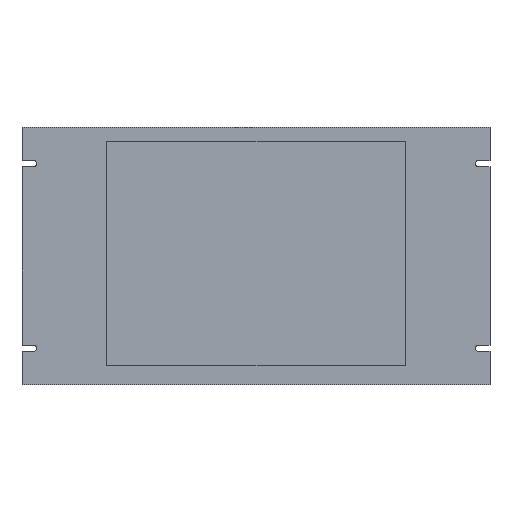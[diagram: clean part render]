
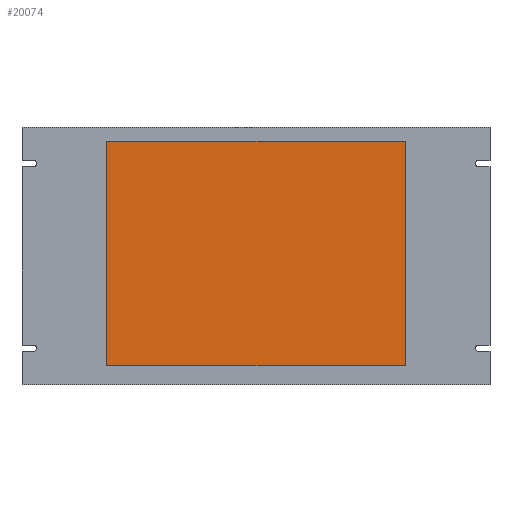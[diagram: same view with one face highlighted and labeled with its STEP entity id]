
A CAD part, top view. The second image highlights one B-rep face of the part: STEP entity #20074.
In plain terms, the highlighted planar face has unit normal (0, 0, 1).
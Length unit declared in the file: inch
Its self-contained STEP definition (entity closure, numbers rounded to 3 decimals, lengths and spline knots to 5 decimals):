
#515 = VECTOR ( 'NONE', #8978, 39.37008 ) ;
#1649 = VECTOR ( 'NONE', #11585, 39.37008 ) ;
#1806 = FACE_OUTER_BOUND ( 'NONE', #6702, .T. ) ;
#2986 = CARTESIAN_POINT ( 'NONE',  ( -6.055, -3.895, 0. ) ) ;
#3383 = CARTESIAN_POINT ( 'NONE',  ( -6.055, 5.225, 0. ) ) ;
#3637 = DIRECTION ( 'NONE',  ( 1., 0., 0. ) ) ;
#3861 = EDGE_CURVE ( 'NONE', #7006, #9681, #21392, .T. ) ;
#4446 = CARTESIAN_POINT ( 'NONE',  ( 6.055, 5.225, 0. ) ) ;
#4783 = CARTESIAN_POINT ( 'NONE',  ( 6.055, -3.895, 0. ) ) ;
#5400 = EDGE_CURVE ( 'NONE', #9681, #6978, #14287, .T. ) ;
#5419 = ORIENTED_EDGE ( 'NONE', *, *, #9998, .T. ) ;
#5663 = DIRECTION ( 'NONE',  ( 0., 0., -1. ) ) ;
#6702 = EDGE_LOOP ( 'NONE', ( #11449, #10029, #5419, #12818 ) ) ;
#6978 = VERTEX_POINT ( 'NONE', #4783 ) ;
#7006 = VERTEX_POINT ( 'NONE', #3383 ) ;
#7367 = EDGE_CURVE ( 'NONE', #6978, #20184, #20477, .T. ) ;
#8978 = DIRECTION ( 'NONE',  ( 0., -1., 0. ) ) ;
#9506 = CARTESIAN_POINT ( 'NONE',  ( 6.055, 5.225, 0. ) ) ;
#9681 = VERTEX_POINT ( 'NONE', #2986 ) ;
#9998 = EDGE_CURVE ( 'NONE', #20184, #7006, #15237, .T. ) ;
#10029 = ORIENTED_EDGE ( 'NONE', *, *, #7367, .T. ) ;
#11449 = ORIENTED_EDGE ( 'NONE', *, *, #5400, .T. ) ;
#11585 = DIRECTION ( 'NONE',  ( 0., 1., 0. ) ) ;
#12810 = CARTESIAN_POINT ( 'NONE',  ( 0., 0., 0. ) ) ;
#12818 = ORIENTED_EDGE ( 'NONE', *, *, #3861, .T. ) ;
#14287 = LINE ( 'NONE', #21635, #16100 ) ;
#15237 = LINE ( 'NONE', #15470, #18091 ) ;
#15356 = DIRECTION ( 'NONE',  ( -1., 0., 0. ) ) ;
#15470 = CARTESIAN_POINT ( 'NONE',  ( -6.055, 5.225, 0. ) ) ;
#16100 = VECTOR ( 'NONE', #3637, 39.37008 ) ;
#16279 = CARTESIAN_POINT ( 'NONE',  ( -6.055, -3.895, 0. ) ) ;
#17854 = PLANE ( 'NONE',  #19174 ) ;
#18091 = VECTOR ( 'NONE', #15356, 39.37008 ) ;
#19174 = AXIS2_PLACEMENT_3D ( 'NONE', #12810, #5663, #21222 ) ;
#20074 = ADVANCED_FACE ( 'NONE', ( #1806 ), #17854, .F. ) ;
#20184 = VERTEX_POINT ( 'NONE', #9506 ) ;
#20477 = LINE ( 'NONE', #4446, #1649 ) ;
#21222 = DIRECTION ( 'NONE',  ( -1., 0., 0. ) ) ;
#21392 = LINE ( 'NONE', #16279, #515 ) ;
#21635 = CARTESIAN_POINT ( 'NONE',  ( 6.055, -3.895, 0. ) ) ;
